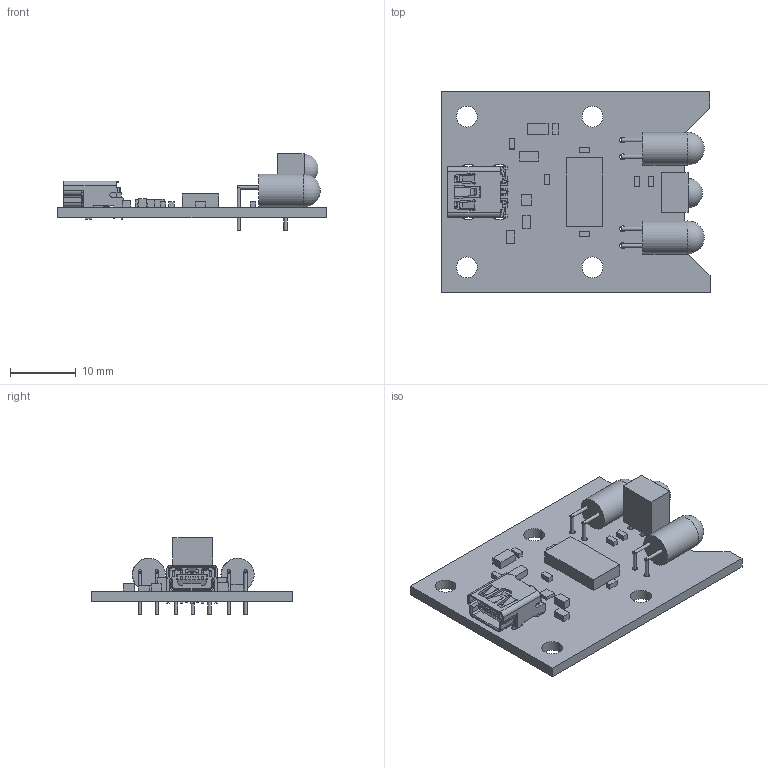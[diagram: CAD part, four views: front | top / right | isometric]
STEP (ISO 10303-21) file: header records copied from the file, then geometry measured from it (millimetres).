
FILE_DESCRIPTION(('Open CASCADE Model'),'2;1');
FILE_NAME('Open CASCADE Shape Model','2010-10-27T12:49:54',('Author'),( 'Open CASCADE'),'Open CASCADE STEP processor 6.2','Open CASCADE 6.2' ,'Unknown');
FILE_SCHEMA(('AUTOMOTIVE_DESIGN { 1 0 10303 214 1 1 1 1 }'));
Length unit declared in the file: millimetre
Products named in the file (52): PCB; Board; J1; 548190519; Open CASCADE STEP translator 6.2 203.2.1.1; Open CASCADE STEP translator 6.2 203.2.1.2; R5; 489472832; Extruded; C4; 489488320; C1; 489472960; C3; C2; 489473088; Q1; 489472448; R2; R4; R1; U2; 527161824; Cylinder; 527149728; Sphere; 489486784; U3; 489472064; U1; 489472320; R3; D1; 521880256; 521889664; 521881600; 521908144; D2; L1; 603626384
Assembly tree (66 placements, depth 4):
  PCB
    Board
    J1
      548190519
        Open CASCADE STEP translator 6.2 203.2.1.1
        Open CASCADE STEP translator 6.2 203.2.1.2
    R5
      489472832
        Extruded
    C4
      489488320
        Extruded
    C1
      489472960
        Extruded
    C3
      489472960
        Extruded
    C2
      489473088
        Extruded
    Q1
      489472448
        Extruded
    R2
      489473088
        Extruded
    R4
      489473088
        Extruded
    R1
      489473088
        Extruded
    U2
      527161824  x3
        Cylinder
      527149728
        Sphere
      489486784
        Extruded
    U3
      489472064
        Extruded
    U1
      489472320
        Extruded
    R3
      489473088
        Extruded
    D1
      521880256  x2
        Cylinder
      521889664  x2
        Cylinder
      521881600
        Sphere
      521908144
        Cylinder
    D2
      521880256  x2
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Bounding box: 40.71 x 30.48 x 11.6 mm (x, y, z)
Volume: 2669.6 mm3; surface area: 4306.4 mm2
Topology: 32 solids, 32 shells, 592 faces, 1577 edges, 1046 vertices
Faces by surface type: plane 466, cylinder 97, bspline 18, cone 8, sphere 3
Full cylindrical faces by diameter (mm): 0.5 x11, 0.8 x5, 0.889 x7, 3.175 x4, 5 x2
Entity records: 40733 total; most frequent: CARTESIAN_POINT 10840, DIRECTION 5227, LINE 3627, VECTOR 3627, ORIENTED_EDGE 2926, PCURVE 2926, DEFINITIONAL_REPRESENTATION 2926, EDGE_CURVE 1463
